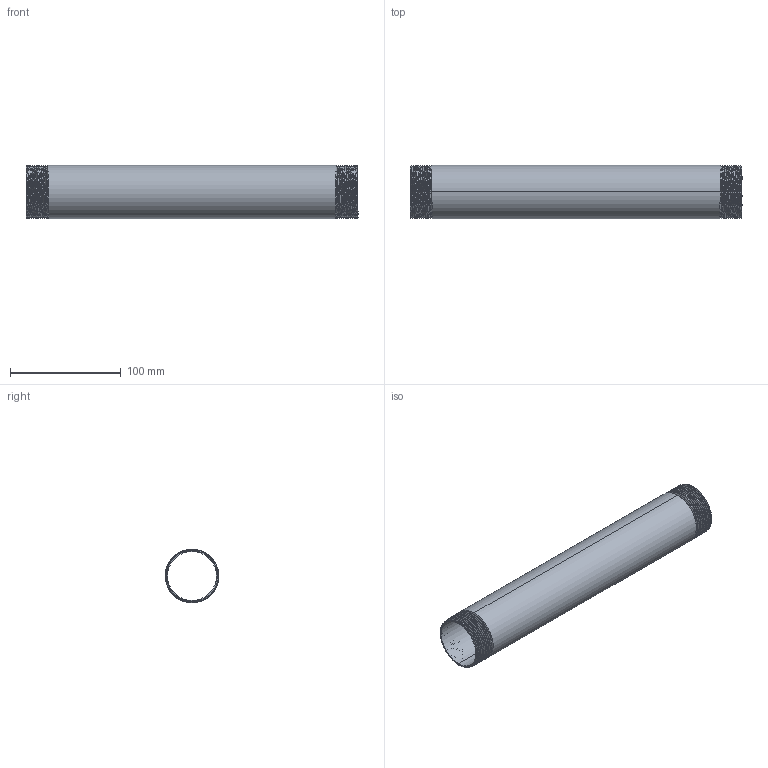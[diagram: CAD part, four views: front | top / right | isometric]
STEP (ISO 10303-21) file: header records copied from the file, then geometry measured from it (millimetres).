
FILE_DESCRIPTION (( 'STEP AP203' ), '1' );
FILE_NAME ('3D_R210_1 1-2x300_17185960.STEP', '2024-08-16T14:27:52', ( '' ), ( '' ), 'SwSTEP 2.0', 'SolidWorks 2024', '' );
FILE_SCHEMA (( 'CONFIG_CONTROL_DESIGN' ));
Length unit declared in the file: millimetre
Products named in the file (1): 3D_R210_1 1-2x300_17185960
Bounding box: 300 x 48.21 x 48.3 mm (x, y, z)
Volume: 83608.3 mm3; surface area: 90848.9 mm2
Topology: 1 solids, 1 shells, 56 faces, 156 edges, 102 vertices
Faces by surface type: cone 42, bspline 6, cylinder 4, plane 4
Entity records: 9909 total; most frequent: CARTESIAN_POINT 8605, ORIENTED_EDGE 312, DIRECTION 172, EDGE_CURVE 156, VERTEX_POINT 102, B_SPLINE_CURVE_WITH_KNOTS 88, AXIS2_PLACEMENT_3D 61, EDGE_LOOP 58
